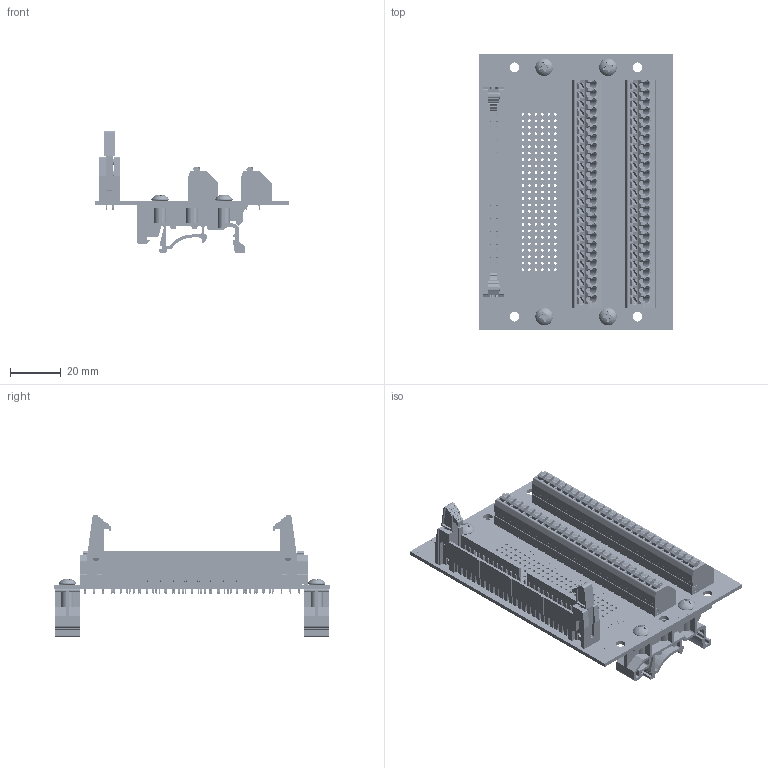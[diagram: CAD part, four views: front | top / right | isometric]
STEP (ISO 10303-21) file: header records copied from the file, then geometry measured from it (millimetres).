
FILE_DESCRIPTION (( 'STEP AP214' ), '1' );
FILE_NAME ('brkg2x25-l-din_rev_a.stp', '2021-04-19T02:00:48', ( '' ), ( '' ), 'SwSTEP 2.0', 'SolidWorks 2017', '' );
FILE_SCHEMA (( 'AUTOMOTIVE_DESIGN' ));
Length unit declared in the file: inch
Products named in the file (6): Screw_SCSMPP-6-0.375_90184A127; dinm01; brkg2x25-l-din_rev_a; Dual Row Header 2x25; BRKG2X25 Board; Spring Terminal 25 Position
Assembly tree (10 placements, depth 2):
  brkg2x25-l-din_rev_a
    BRKG2X25 Board
    dinm01  x2
    Dual Row Header 2x25
    Screw_SCSMPP-6-0.375_90184A127  x4
    Spring Terminal 25 Position  x2
Bounding box: 76.2 x 107.95 x 47.87 mm (x, y, z)
Volume: 44007 mm3; surface area: 49832.4 mm2
Topology: 62 solids, 62 shells, 10077 faces, 27400 edges, 17854 vertices
Faces by surface type: plane 6070, cylinder 2080, bspline 1655, cone 256, sphere 8, torus 8
Entity records: 410352 total; most frequent: CARTESIAN_POINT 134180, ORIENTED_EDGE 41192, DIRECTION 31259, EDGE_CURVE 20596, LINE 14077, VECTOR 14077, VERTEX_POINT 13403, EDGE_LOOP 8625
